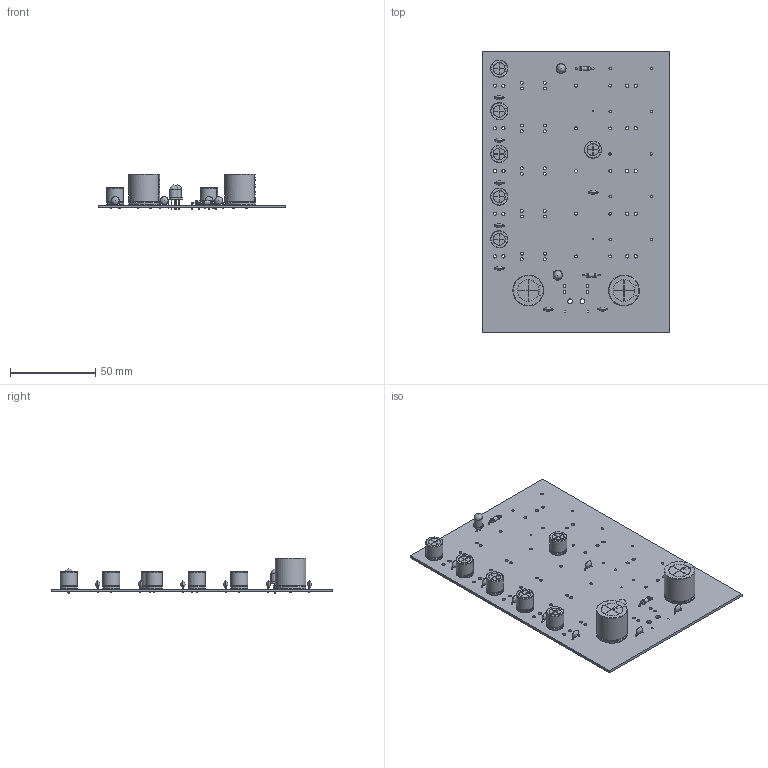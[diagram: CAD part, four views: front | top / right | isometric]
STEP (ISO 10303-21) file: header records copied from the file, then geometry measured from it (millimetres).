
FILE_DESCRIPTION(('KiCad electronic assembly'),'2;1');
FILE_NAME('.step','2026-07-09T22:13:03',('Pcbnew'),('Kicad'), 'Open CASCADE STEP processor 7.9','KiCad to STEP converter','Unknown' );
FILE_SCHEMA(('AUTOMOTIVE_DESIGN { 1 0 10303 214 1 1 1 1 }'));
Length unit declared in the file: millimetre
Products named in the file (12): .step 1; C_Disc_D4.7mm_W2.5mm_P5.00mm; C_Disc_D47mm_W25mm_P500mm; CP_Radial_D10.0mm_P5.00mm; CP_Radial_D100mm_P500mm; R_Axial_DIN0207_L6.3mm_D2.5mm_P10.16mm_Horizontal; R_Axial_DIN0207_L63mm_D25mm_P1016mm_Horizontal; LED_D5.0mm; CP_Radial_D18.0mm_P7.50mm; CP_Radial_D180mm_P750mm; robot_arm_power_distribution_board_PCB
Assembly tree (26 placements, depth 3):
  .step 1
    C_Disc_D4.7mm_W2.5mm_P5.00mm  x8
      C_Disc_D47mm_W25mm_P500mm
    CP_Radial_D10.0mm_P5.00mm  x6
      CP_Radial_D100mm_P500mm
    R_Axial_DIN0207_L6.3mm_D2.5mm_P10.16mm_Horizontal  x2
      R_Axial_DIN0207_L63mm_D25mm_P1016mm_Horizontal
    LED_D5.0mm  x2
      LED_D5.0mm
    CP_Radial_D18.0mm_P7.50mm  x2
      CP_Radial_D180mm_P750mm
    robot_arm_power_distribution_board_PCB
Bounding box: 110 x 165 x 21 mm (x, y, z)
Volume: 42602.2 mm3; surface area: 45539.7 mm2
Topology: 21 solids, 29 shells, 656 faces, 1684 edges, 1110 vertices
Faces by surface type: cylinder 278, plane 248, revolution 48, bspline 40, torus 24, sphere 18
Full cylindrical faces by diameter (mm): 0.5 x32, 0.6 x8, 0.7 x14, 0.8 x20, 0.9 x8, 1 x12, 1.2 x4, 1.397 x10, 1.651 x10, 1.727 x24, 1.9 x20, 2.25 x2, 2.5 x4, 2.7 x2, 4.9 x2
Entity records: 11700 total; most frequent: CARTESIAN_POINT 3148, DIRECTION 1558, ORIENTED_EDGE 1412, EDGE_CURVE 706, AXIS2_PLACEMENT_3D 634, FACE_BOUND 498, EDGE_LOOP 498, VERTEX_POINT 474
